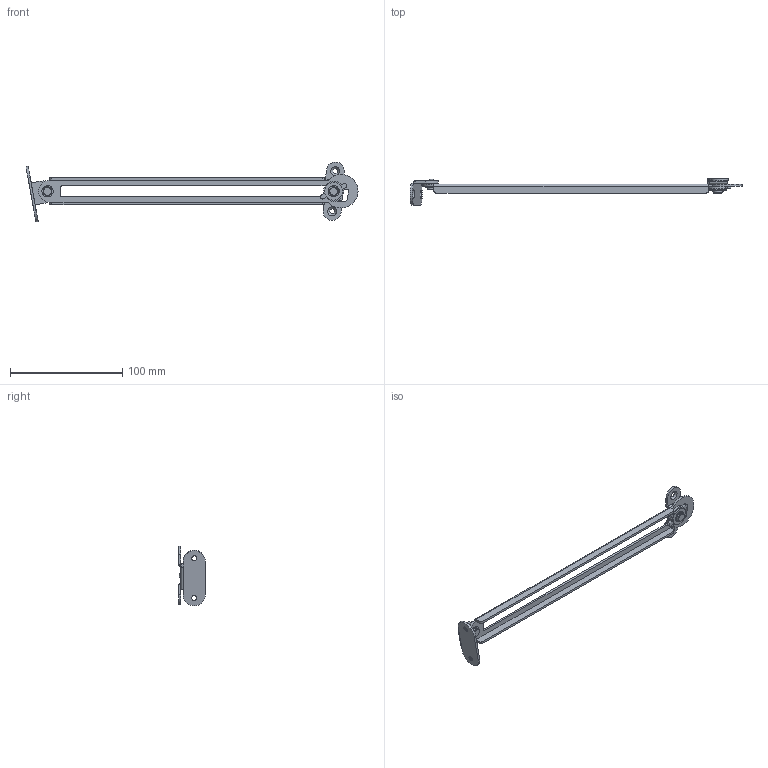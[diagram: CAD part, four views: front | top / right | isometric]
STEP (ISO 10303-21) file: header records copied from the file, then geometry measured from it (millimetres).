
FILE_DESCRIPTION((''),'2;1');
FILE_NAME('\\Cad-srv01-2\図面\900 図面交換受渡し場所\■■カタログ作成中（消さないでください)■■\1203　APPIT　3D\03購買先データ\双葉\ステー\ｽﾃｰ\EDS-91 R\EDS-91 R.stp','2013-07-11T15:50:14',('Administrator'),(''),'Autodesk Inventor 11','Autodesk Inventor 11','');
FILE_SCHEMA(('AUTOMOTIVE_DESIGN { 1 0 10303 214 1 1 1 1 }'));
Length unit declared in the file: millimetre
Products named in the file (12): S-91R-SD_ﾛｰﾀﾘｰｽﾃｰR; S-091011_N_D; S-09103_U; S-09109__; S-09106_eA; S-09101R___R; S-09202_N_A; S-09107_eB; S-09105_; S-09108_N_B; S-09102___; S-09104_L
Assembly tree (11 placements, depth 2):
  S-91R-SD_ﾛｰﾀﾘｰｽﾃｰR
    S-091011_N_D
    S-09103_U
    S-09109__
    S-09106_eA
    S-09101R___R
    S-09202_N_A
    S-09107_eB
    S-09105_
    S-09108_N_B
    S-09102___
    S-09104_L
Bounding box: 296.19 x 24 x 53.18 mm (x, y, z)
Volume: 18995.5 mm3; surface area: 23222.9 mm2
Topology: 11 solids, 11 shells, 134 faces, 295 edges, 188 vertices
Faces by surface type: plane 72, cylinder 54, cone 6, sphere 1, bspline 1
Full cylindrical faces by diameter (mm): 3.4 x1, 3.5 x1, 4 x1, 4.2 x1, 4.4 x1, 4.5 x6, 5 x2, 5.2 x4, 8 x2, 10 x3, 14 x1, 16 x1
Entity records: 3900 total; most frequent: DIRECTION 688, CARTESIAN_POINT 627, ORIENTED_EDGE 520, AXIS2_PLACEMENT_3D 272, EDGE_CURVE 260, EDGE_LOOP 198, VERTEX_POINT 184, VECTOR 144
